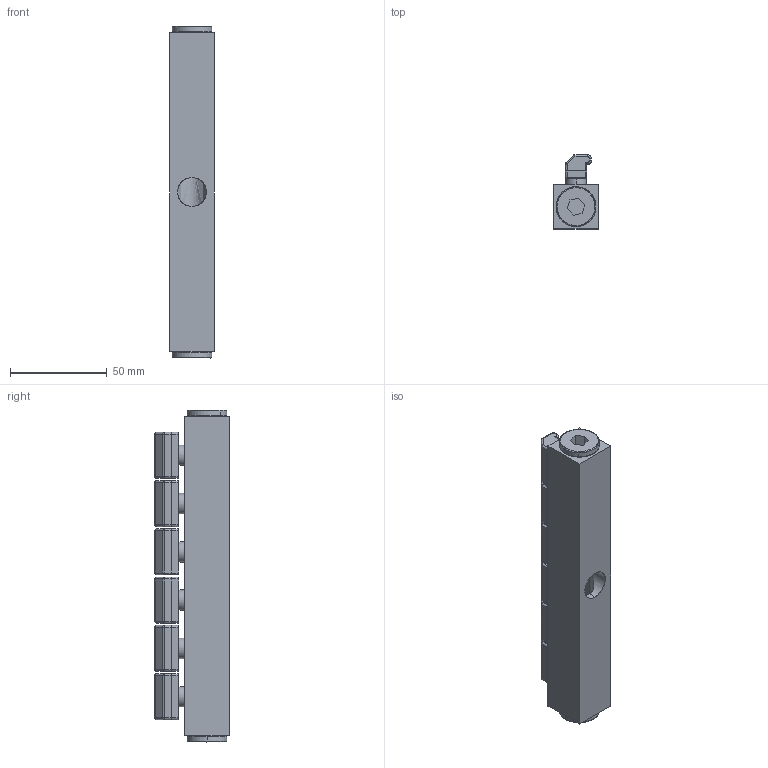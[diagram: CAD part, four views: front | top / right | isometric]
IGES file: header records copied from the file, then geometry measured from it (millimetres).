
Start section: SolidWorks IGES file using analytic representation for surfaces
Global section: file name: G:\Silvent\Ritningar\Övrigt\IGES\Silvent 366.IGS; native system: SolidWorks 2006 by SolidWorks Corporation; preprocessor: SolidWorks 2006 by SolidWorks Corporation; author: SilvRaTi; date: 061220.085715; units: millimetre
Bounding box: 23 x 38.5 x 172 mm (x, y, z)
Surface area: 38344.2 mm2 (no closed solid volume)
Topology: 0 solids, 0 shells, 1406 faces, 11137 edges, 11125 vertices
Faces by surface type: bspline 910, revolution 496
